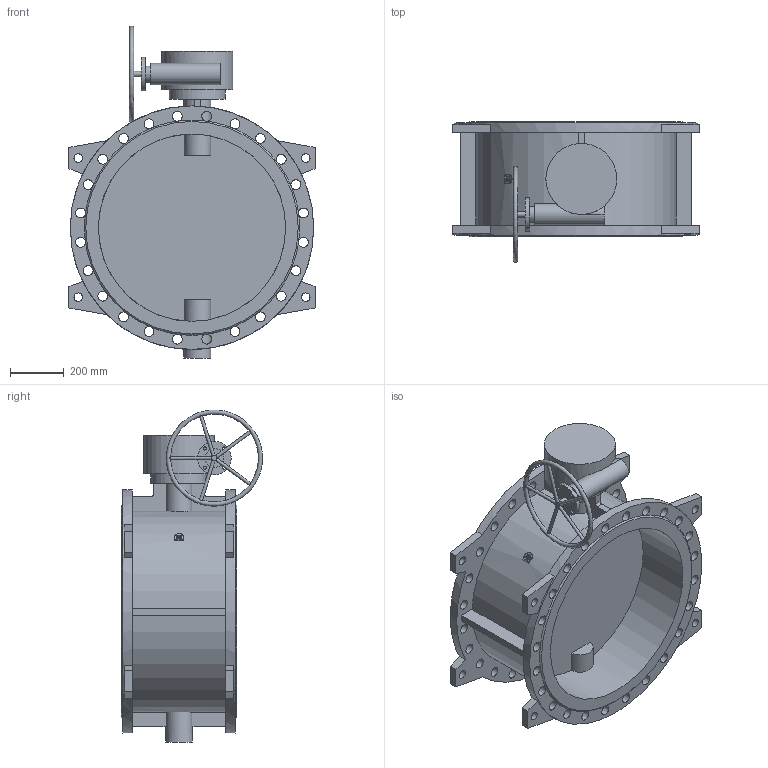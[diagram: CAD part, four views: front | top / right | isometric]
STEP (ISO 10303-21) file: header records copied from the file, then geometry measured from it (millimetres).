
FILE_DESCRIPTION(('STEP AP203'), '1');
FILE_NAME('Çàòâîð 023F.Z DN700 PN16_ìàõ', '', ('UNSPECIFIED'), ('UNSPECIFIED'), 'ASCON STEP Converter 1.6', 'ASCON Math Kernel', '');
FILE_SCHEMA(('CONFIG_CONTROL_DESIGN'));
Length unit declared in the file: millimetre
Bounding box: 920 x 527.07 x 1240.57 mm (x, y, z)
Volume: 75757204.2 mm3; surface area: 4464475.2 mm2
Topology: 1 solids, 1 shells, 197 faces, 677 edges, 452 vertices
Faces by surface type: cylinder 104, plane 90, cone 2, torus 1
Full cylindrical faces by diameter (mm): 12 x9, 18.5 x4, 20 x2, 23 x4, 32 x8, 37 x48, 60 x1, 70 x1, 80 x1, 100 x1, 125 x1, 210 x1, 265 x1, 700 x2, 910 x2
Entity records: 13649 total; most frequent: CARTESIAN_POINT 6243, DIRECTION 1183, ORIENTED_EDGE 1168, EDGE_CURVE 584, AXIS2_PLACEMENT_3D 501, VERTEX_POINT 450, EDGE_LOOP 384, CIRCLE 304
